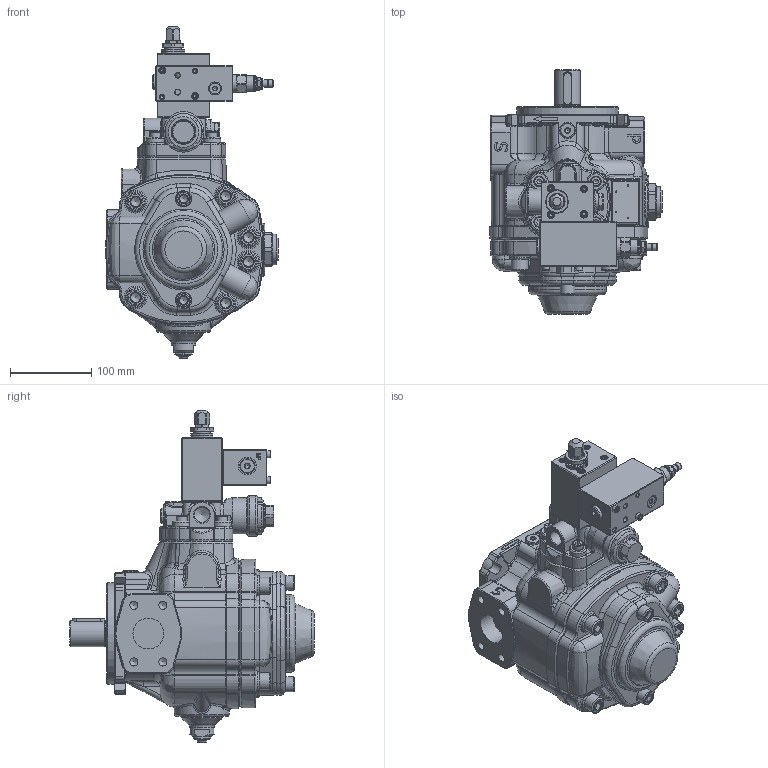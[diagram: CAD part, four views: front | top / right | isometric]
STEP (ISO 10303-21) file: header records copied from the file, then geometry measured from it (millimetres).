
FILE_DESCRIPTION(/* description */ (''),/* implementation_level */ '2;1');
FILE_NAME(/* name */ 'C:\Users\marcop\Desktop\01 PHPK 2 FHRMA PCS003.stp',/* time_stamp */ '2019-11-21T11:11:18+01:00',/* author */ ('marcop'),/* organization */ (''),/* preprocessor_version */ 'ST-DEVELOPER v17',/* originating_system */ 'Autodesk Inventor 2018',/* authorisation */ '');
FILE_SCHEMA (('AUTOMOTIVE_DESIGN { 1 0 10303 214 3 1 1 }'));
Products named in the file (1): PLP - PHP 2_Shrinkwrap_1
Bounding box: 212.17 x 301.5 x 409.1 mm (x, y, z)
Volume: 5055433.5 mm3; surface area: 484806.7 mm2
Topology: 2 solids, 2 shells, 2498 faces, 6403 edges, 3999 vertices
Faces by surface type: plane 953, cylinder 558, bspline 429, cone 287, torus 237, sphere 34
Full cylindrical faces by diameter (mm): 0.9 x3, 1.7 x4, 2.5 x3, 4 x1, 4.134 x2, 5.5 x2, 6 x2, 6.5 x3, 7.2 x1, 7.671 x2, 8 x1, 8.376 x4, 8.5 x6, 8.566 x2, 9.347 x2, 9.5 x5, 10 x1, 10.106 x4, 11.445 x1, 12 x4, 13 x4, 13.487 x1, 13.5 x1, 13.767 x2, 14 x3, 14.224 x1, 14.63 x1, 15.5 x1, 16 x2, 17.374 x1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
Entity records: 92480 total; most frequent: CARTESIAN_POINT 32158, ORIENTED_EDGE 12668, DIRECTION 11476, EDGE_CURVE 6334, AXIS2_PLACEMENT_3D 4474, VERTEX_POINT 3999, EDGE_LOOP 2667, LINE 2528
